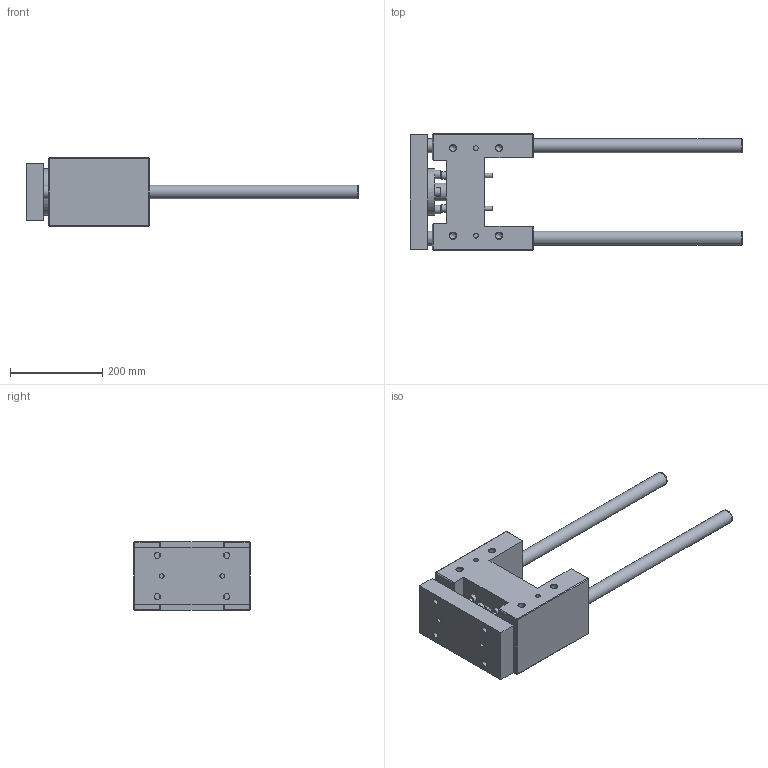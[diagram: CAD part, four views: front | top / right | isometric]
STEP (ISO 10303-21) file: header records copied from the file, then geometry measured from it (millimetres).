
FILE_DESCRIPTION( ( 'STEP AP214' ), '1' );
FILE_NAME( 'U:/Etudes/Top Solid/BIBLIO 3D AVM/TOP/PNEUMATIQUE/GUIDAGES/Type 32 (en H)/R_Renforcée/328R7230.step', '2005-05-27T09:16:08', ( ' ' ), ( ' ' ), 'XStep 1.0', ' ', ' ' );
FILE_SCHEMA( ( 'automotive_design' ) );
Length unit declared in the file: metre
Products named in the file (2): 1; 2
Bounding box: 720 x 252 x 148 mm (x, y, z)
Volume: 6956837.2 mm3; surface area: 590718.1 mm2
Topology: 2 solids, 7 shells, 239 faces, 527 edges, 341 vertices
Faces by surface type: plane 149, cylinder 69, cone 21
Full cylindrical faces by diameter (mm): 10 x12, 10.106 x4, 11 x4, 12 x8, 13 x8, 13.835 x8, 16 x4, 18 x4, 18.376 x2, 20 x4, 30 x4, 39 x1, 42 x1, 45 x1, 57 x1, 60 x1, 65 x1, 100 x1
Entity records: 7933 total; most frequent: CARTESIAN_POINT 1201, DIRECTION 1000, ORIENTED_EDGE 786, EDGE_CURVE 393, EDGE_LOOP 392, AXIS2_PLACEMENT_3D 374, FACE_OUTER_BOUND 308, VERTEX_POINT 303
